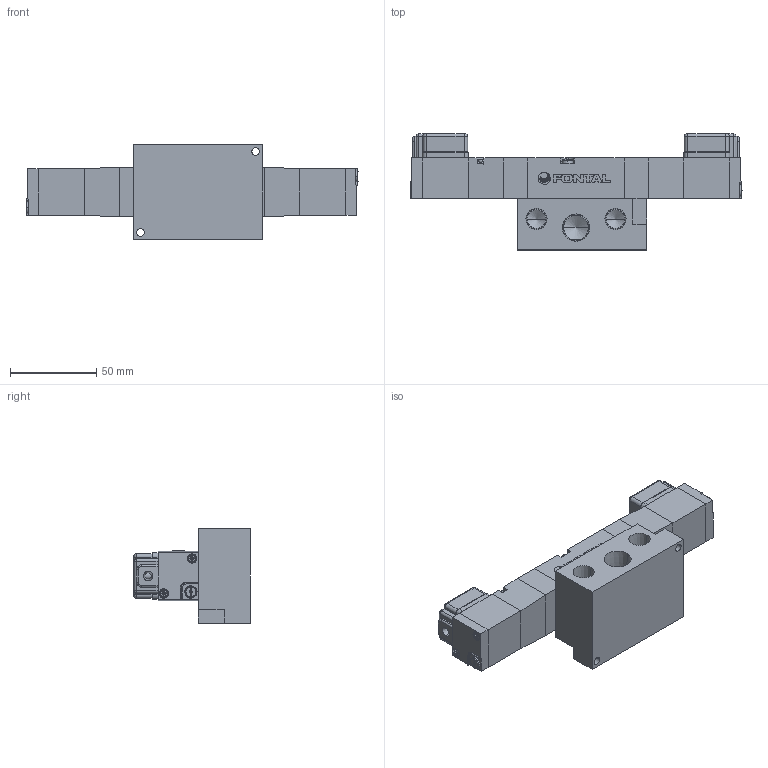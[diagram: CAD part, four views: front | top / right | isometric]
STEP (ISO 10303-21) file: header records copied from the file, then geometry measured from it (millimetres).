
FILE_DESCRIPTION (( 'STEP AP203' ), '1' );
FILE_NAME ('PCD(E¡BO)3408#-03-#G#.STEP', '2016-02-04T05:56:06', ( 'Sam Lin' ), ( '' ), 'SwSTEP 2.0', 'SolidWorks 2013', '' );
FILE_SCHEMA (( 'CONFIG_CONTROL_DESIGN' ));
Length unit declared in the file: metre
Products named in the file (13): PCS2406-3; PCD(E、O)3408#-03-#G#; PC6-M4; PCS2406-8; PCS2406-9; PC6-M3; PC08-MARK; PC08-1; PC08-4; PC08-2; PCS2406-3-小圓珠; PCS2406-7; PC08-5
Assembly tree (25 placements, depth 2):
  PCD(E、O)3408#-03-#G#
    PC08-1
    PC08-2
    PCS2406-7  x2
    PCS2406-3  x2
    PC6-M4  x4
    PCS2406-8  x2
    PCS2406-9  x2
    PC6-M3  x4
    PC08-MARK
    PC08-4  x2
    PCS2406-3-小圓珠  x2
    PC08-5  x2
Bounding box: 193 x 67.5 x 55 mm (x, y, z)
Volume: 255147.7 mm3; surface area: 61579.2 mm2
Topology: 31 solids, 31 shells, 688 faces, 1669 edges, 1031 vertices
Faces by surface type: plane 364, cylinder 136, cone 94, bspline 86, torus 8
Entity records: 12785 total; most frequent: CARTESIAN_POINT 2834, DIRECTION 1709, ORIENTED_EDGE 1690, EDGE_CURVE 845, AXIS2_PLACEMENT_3D 598, VERTEX_POINT 543, VECTOR 513, LINE 513
